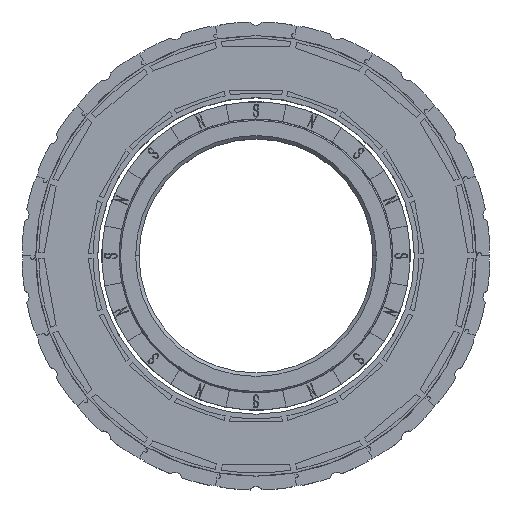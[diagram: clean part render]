
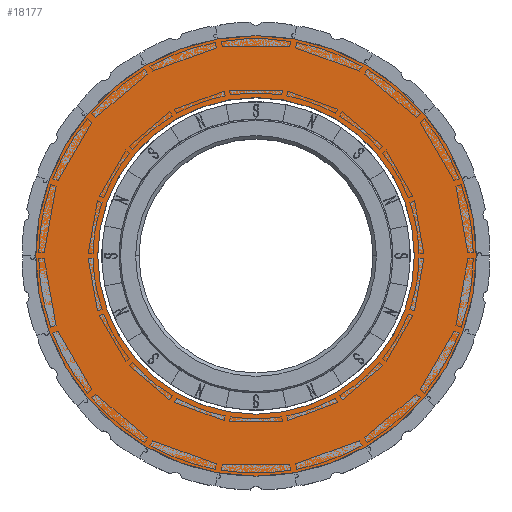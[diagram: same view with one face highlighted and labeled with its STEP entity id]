
A CAD part, top view. The second image highlights one B-rep face of the part: STEP entity #18177.
In plain terms, the highlighted planar face has unit normal (0, 0, 1).
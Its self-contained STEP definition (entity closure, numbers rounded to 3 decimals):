
#228 = ORIENTED_EDGE ( 'NONE', *, *, #3628, .F. ) ;
#310 = DIRECTION ( 'NONE',  ( 0., 0., 1. ) ) ;
#719 = AXIS2_PLACEMENT_3D ( 'NONE', #28066, #23872, #38526 ) ;
#1646 = CIRCLE ( 'NONE', #44108, 23. ) ;
#3628 = EDGE_CURVE ( 'NONE', #25424, #7056, #1646, .T. ) ;
#6793 = DIRECTION ( 'NONE',  ( 0., 0., 1. ) ) ;
#7056 = VERTEX_POINT ( 'NONE', #35660 ) ;
#7193 = DIRECTION ( 'NONE',  ( 1., 0., 0. ) ) ;
#7454 = CIRCLE ( 'NONE', #719, 23. ) ;
#8043 = CARTESIAN_POINT ( 'NONE',  ( 0., 0., 0. ) ) ;
#8399 = AXIS2_PLACEMENT_3D ( 'NONE', #38734, #6793, #34603 ) ;
#8659 = CARTESIAN_POINT ( 'NONE',  ( 32., 0., 0. ) ) ;
#8961 = VERTEX_POINT ( 'NONE', #8659 ) ;
#10477 = DIRECTION ( 'NONE',  ( 0., 0., 1. ) ) ;
#10651 = CIRCLE ( 'NONE', #8399, 32. ) ;
#10991 = EDGE_CURVE ( 'NONE', #7056, #25424, #7454, .T. ) ;
#13032 = AXIS2_PLACEMENT_3D ( 'NONE', #8043, #21228, #35409 ) ;
#13670 = EDGE_CURVE ( 'NONE', #8961, #14694, #42153, .T. ) ;
#14368 = DIRECTION ( 'NONE',  ( 1., 0., 0. ) ) ;
#14694 = VERTEX_POINT ( 'NONE', #46072 ) ;
#18177 = ADVANCED_FACE ( 'NONE', ( #46112, #28210 ), #20991, .T. ) ;
#18504 = EDGE_LOOP ( 'NONE', ( #31950, #44475 ) ) ;
#20991 = PLANE ( 'NONE',  #13032 ) ;
#21228 = DIRECTION ( 'NONE',  ( 0., 0., 1. ) ) ;
#23872 = DIRECTION ( 'NONE',  ( 0., 0., 1. ) ) ;
#24425 = AXIS2_PLACEMENT_3D ( 'NONE', #46038, #310, #14368 ) ;
#25424 = VERTEX_POINT ( 'NONE', #34723 ) ;
#28066 = CARTESIAN_POINT ( 'NONE',  ( 0., 0., 0. ) ) ;
#28210 = FACE_OUTER_BOUND ( 'NONE', #18504, .T. ) ;
#31948 = EDGE_LOOP ( 'NONE', ( #43102, #228 ) ) ;
#31950 = ORIENTED_EDGE ( 'NONE', *, *, #13670, .T. ) ;
#34603 = DIRECTION ( 'NONE',  ( 1., 0., 0. ) ) ;
#34723 = CARTESIAN_POINT ( 'NONE',  ( -23., 0., 0. ) ) ;
#35409 = DIRECTION ( 'NONE',  ( 1., 0., 0. ) ) ;
#35660 = CARTESIAN_POINT ( 'NONE',  ( 23., 0., 0. ) ) ;
#35884 = EDGE_CURVE ( 'NONE', #14694, #8961, #10651, .T. ) ;
#38526 = DIRECTION ( 'NONE',  ( 1., 0., 0. ) ) ;
#38734 = CARTESIAN_POINT ( 'NONE',  ( 0., 0., 0. ) ) ;
#42153 = CIRCLE ( 'NONE', #24425, 32. ) ;
#43102 = ORIENTED_EDGE ( 'NONE', *, *, #10991, .F. ) ;
#44108 = AXIS2_PLACEMENT_3D ( 'NONE', #45878, #10477, #7193 ) ;
#44475 = ORIENTED_EDGE ( 'NONE', *, *, #35884, .T. ) ;
#45878 = CARTESIAN_POINT ( 'NONE',  ( 0., 0., 0. ) ) ;
#46038 = CARTESIAN_POINT ( 'NONE',  ( 0., 0., 0. ) ) ;
#46072 = CARTESIAN_POINT ( 'NONE',  ( -32., 0., 0. ) ) ;
#46112 = FACE_BOUND ( 'NONE', #31948, .T. ) ;
